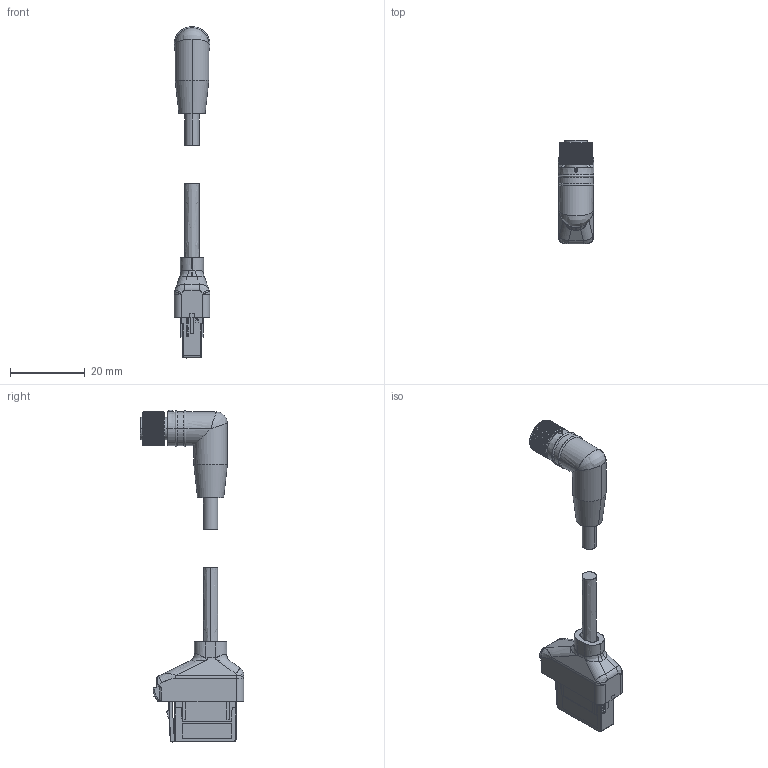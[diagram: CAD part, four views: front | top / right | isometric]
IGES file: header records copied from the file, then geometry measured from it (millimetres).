
Start section: SolidWorks IGES file using analytic representation for surfaces
Bounding box: 9.6 x 27.65 x 88.8 mm (x, y, z)
Surface area: 4587.9 mm2 (no closed solid volume)
Topology: 0 solids, 0 shells, 1144 faces, 8625 edges, 8603 vertices
Faces by surface type: bspline 855, revolution 289
